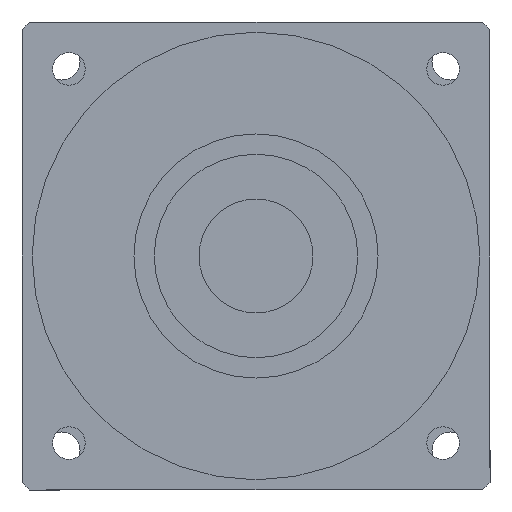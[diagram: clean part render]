
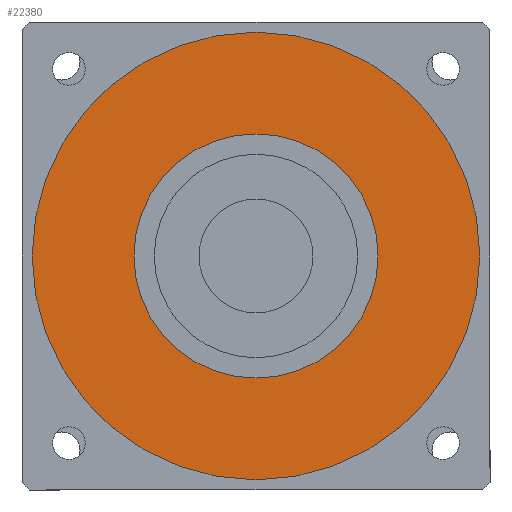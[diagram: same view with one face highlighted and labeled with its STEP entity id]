
A CAD part, left-side view. The second image highlights one B-rep face of the part: STEP entity #22380.
In plain terms, the highlighted planar face has unit normal (-1, 0, 0) as drawn and (0, 0, -1) by its records, which use the part's own axes.
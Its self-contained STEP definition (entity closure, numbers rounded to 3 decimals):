
#21800=CARTESIAN_POINT('',(-55.,0.,-115.5));
#21810=VERTEX_POINT('',#21800);
#21900=CARTESIAN_POINT('',(55.,0.,-115.5));
#21910=VERTEX_POINT('',#21900);
#21940=CARTESIAN_POINT('',(0.,0.,
-115.5));
#21950=DIRECTION('',(0.,0.,1.));
#21960=DIRECTION('',(0.,-1.,0.));
#21970=AXIS2_PLACEMENT_3D('',#21940,#21950,#21960);
#21980=CIRCLE('',#21970,55.);
#21990=CARTESIAN_POINT('',(0.,-55.,-115.5));
#22000=VERTEX_POINT('',#21990);
#22010=EDGE_CURVE('',#22000,#21910,#21980,.T.);
#22030=EDGE_CURVE('',#21810,#22000,#21980,.T.);
#22080=CARTESIAN_POINT('',(0.,0.,
-115.5));
#22090=DIRECTION('',(0.,0.,1.));
#22100=DIRECTION('',(-1.,0.,0.));
#22110=AXIS2_PLACEMENT_3D('',#22080,#22090,#22100);
#22120=PLANE('',#22110);
#22130=ORIENTED_EDGE('',*,*,#22010,.F.);
#22140=EDGE_CURVE('',#21910,#21810,#21980,.T.);
#22150=ORIENTED_EDGE('',*,*,#22140,.F.);
#22160=ORIENTED_EDGE('',*,*,#22030,.F.);
#22170=EDGE_LOOP('',(#22160,#22150,#22130));
#22180=FACE_OUTER_BOUND('',#22170,.T.);
#22190=CARTESIAN_POINT('',(0.,0.,
-115.5));
#22200=DIRECTION('',(0.,0.,1.));
#22210=DIRECTION('',(0.,-1.,0.));
#22220=AXIS2_PLACEMENT_3D('',#22190,#22200,#22210);
#22230=CIRCLE('',#22220,30.);
#22240=CARTESIAN_POINT('',(30.,0.,-115.5));
#22250=VERTEX_POINT('',#22240);
#22260=CARTESIAN_POINT('',(-30.,0.,-115.5));
#22270=VERTEX_POINT('',#22260);
#22280=EDGE_CURVE('',#22250,#22270,#22230,.T.);
#22290=ORIENTED_EDGE('',*,*,#22280,.T.);
#22300=CARTESIAN_POINT('',(0.,-30.,-115.5));
#22310=VERTEX_POINT('',#22300);
#22320=EDGE_CURVE('',#22310,#22250,#22230,.T.);
#22330=ORIENTED_EDGE('',*,*,#22320,.T.);
#22340=EDGE_CURVE('',#22270,#22310,#22230,.T.);
#22350=ORIENTED_EDGE('',*,*,#22340,.T.);
#22360=EDGE_LOOP('',(#22350,#22330,#22290));
#22370=FACE_BOUND('',#22360,.T.);
#22380=ADVANCED_FACE('',(#22180,#22370),#22120,.F.);
